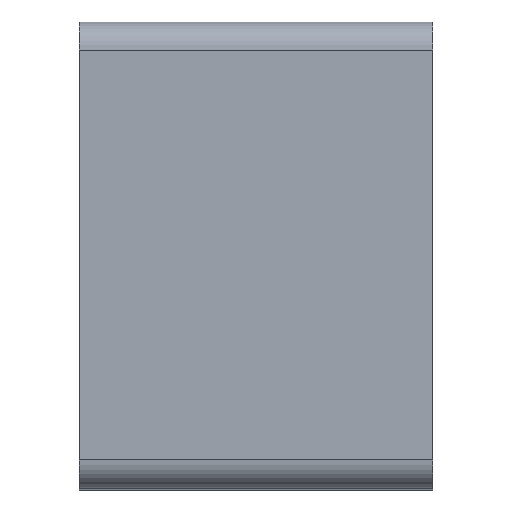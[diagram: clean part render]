
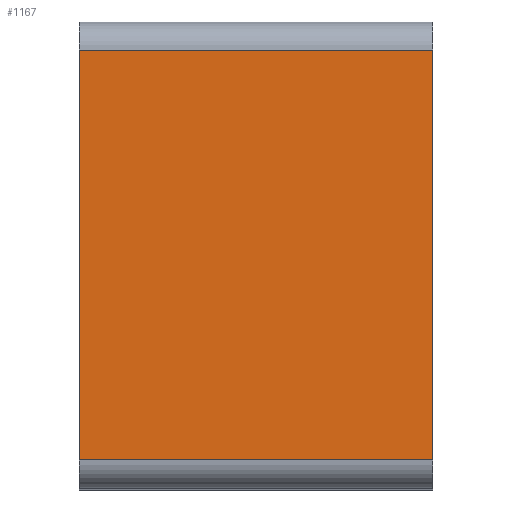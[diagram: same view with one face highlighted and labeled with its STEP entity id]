
A CAD part, top view. The second image highlights one B-rep face of the part: STEP entity #1167.
In plain terms, the highlighted planar face has unit normal (0, 0, 1).
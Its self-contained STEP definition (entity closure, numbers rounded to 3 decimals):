
#32 = PLANE('',#33);
#33 = AXIS2_PLACEMENT_3D('',#34,#35,#36);
#34 = CARTESIAN_POINT('',(25.5,23.4,-12.5));
#35 = DIRECTION('',(-1.,0.,0.));
#36 = DIRECTION('',(0.,0.,1.));
#117 = VERTEX_POINT('',#118);
#118 = CARTESIAN_POINT('',(25.5,21.95,-4.95));
#137 = CYLINDRICAL_SURFACE('',#138,0.2);
#138 = AXIS2_PLACEMENT_3D('',#139,#140,#141);
#139 = CARTESIAN_POINT('',(26.75,21.95,-5.15));
#140 = DIRECTION('',(-1.,-0.,0.));
#141 = DIRECTION('',(0.,0.,1.));
#148 = EDGE_CURVE('',#149,#117,#151,.T.);
#149 = VERTEX_POINT('',#150);
#150 = CARTESIAN_POINT('',(25.5,24.85,-4.95));
#151 = SURFACE_CURVE('',#152,(#156,#163),.PCURVE_S1.);
#152 = LINE('',#153,#154);
#153 = CARTESIAN_POINT('',(25.5,24.85,-4.95));
#154 = VECTOR('',#155,1.);
#155 = DIRECTION('',(0.,-1.,0.));
#156 = PCURVE('',#32,#157);
#157 = DEFINITIONAL_REPRESENTATION('',(#158),#162);
#158 = LINE('',#159,#160);
#159 = CARTESIAN_POINT('',(7.55,1.45));
#160 = VECTOR('',#161,1.);
#161 = DIRECTION('',(0.,-1.));
#162 = ( GEOMETRIC_REPRESENTATION_CONTEXT(2) 
PARAMETRIC_REPRESENTATION_CONTEXT() REPRESENTATION_CONTEXT('2D SPACE',''
  ) );
#163 = PCURVE('',#164,#169);
#164 = PLANE('',#165);
#165 = AXIS2_PLACEMENT_3D('',#166,#167,#168);
#166 = CARTESIAN_POINT('',(26.75,24.85,-4.95));
#167 = DIRECTION('',(0.,0.,1.));
#168 = DIRECTION('',(-1.,0.,0.));
#169 = DEFINITIONAL_REPRESENTATION('',(#170),#174);
#170 = LINE('',#171,#172);
#171 = CARTESIAN_POINT('',(1.25,0.));
#172 = VECTOR('',#173,1.);
#173 = DIRECTION('',(0.,1.));
#174 = ( GEOMETRIC_REPRESENTATION_CONTEXT(2) 
PARAMETRIC_REPRESENTATION_CONTEXT() REPRESENTATION_CONTEXT('2D SPACE',''
  ) );
#197 = CYLINDRICAL_SURFACE('',#198,0.2);
#198 = AXIS2_PLACEMENT_3D('',#199,#200,#201);
#199 = CARTESIAN_POINT('',(26.75,24.85,-5.15));
#200 = DIRECTION('',(-1.,0.,0.));
#201 = DIRECTION('',(0.,1.,0.));
#551 = PLANE('',#552);
#552 = AXIS2_PLACEMENT_3D('',#553,#554,#555);
#553 = CARTESIAN_POINT('',(28.,23.4,-12.5));
#554 = DIRECTION('',(1.,-0.,0.));
#555 = DIRECTION('',(0.,0.,-1.));
#801 = VERTEX_POINT('',#802);
#802 = CARTESIAN_POINT('',(28.,24.85,-4.95));
#823 = EDGE_CURVE('',#801,#824,#826,.T.);
#824 = VERTEX_POINT('',#825);
#825 = CARTESIAN_POINT('',(28.,21.95,-4.95));
#826 = SURFACE_CURVE('',#827,(#831,#838),.PCURVE_S1.);
#827 = LINE('',#828,#829);
#828 = CARTESIAN_POINT('',(28.,24.85,-4.95));
#829 = VECTOR('',#830,1.);
#830 = DIRECTION('',(0.,-1.,0.));
#831 = PCURVE('',#551,#832);
#832 = DEFINITIONAL_REPRESENTATION('',(#833),#837);
#833 = LINE('',#834,#835);
#834 = CARTESIAN_POINT('',(-7.55,1.45));
#835 = VECTOR('',#836,1.);
#836 = DIRECTION('',(0.,-1.));
#837 = ( GEOMETRIC_REPRESENTATION_CONTEXT(2) 
PARAMETRIC_REPRESENTATION_CONTEXT() REPRESENTATION_CONTEXT('2D SPACE',''
  ) );
#838 = PCURVE('',#164,#839);
#839 = DEFINITIONAL_REPRESENTATION('',(#840),#844);
#840 = LINE('',#841,#842);
#841 = CARTESIAN_POINT('',(-1.25,0.));
#842 = VECTOR('',#843,1.);
#843 = DIRECTION('',(0.,1.));
#844 = ( GEOMETRIC_REPRESENTATION_CONTEXT(2) 
PARAMETRIC_REPRESENTATION_CONTEXT() REPRESENTATION_CONTEXT('2D SPACE',''
  ) );
#1119 = EDGE_CURVE('',#801,#149,#1120,.T.);
#1120 = SURFACE_CURVE('',#1121,(#1125,#1132),.PCURVE_S1.);
#1121 = LINE('',#1122,#1123);
#1122 = CARTESIAN_POINT('',(26.75,24.85,-4.95));
#1123 = VECTOR('',#1124,1.);
#1124 = DIRECTION('',(-1.,0.,0.));
#1125 = PCURVE('',#197,#1126);
#1126 = DEFINITIONAL_REPRESENTATION('',(#1127),#1131);
#1127 = LINE('',#1128,#1129);
#1128 = CARTESIAN_POINT('',(-1.571,0.));
#1129 = VECTOR('',#1130,1.);
#1130 = DIRECTION('',(-0.,1.));
#1131 = ( GEOMETRIC_REPRESENTATION_CONTEXT(2) 
PARAMETRIC_REPRESENTATION_CONTEXT() REPRESENTATION_CONTEXT('2D SPACE',''
  ) );
#1132 = PCURVE('',#164,#1133);
#1133 = DEFINITIONAL_REPRESENTATION('',(#1134),#1138);
#1134 = LINE('',#1135,#1136);
#1135 = CARTESIAN_POINT('',(0.,0.));
#1136 = VECTOR('',#1137,1.);
#1137 = DIRECTION('',(1.,0.));
#1138 = ( GEOMETRIC_REPRESENTATION_CONTEXT(2) 
PARAMETRIC_REPRESENTATION_CONTEXT() REPRESENTATION_CONTEXT('2D SPACE',''
  ) );
#1167 = ADVANCED_FACE('',(#1168),#164,.T.);
#1168 = FACE_BOUND('',#1169,.T.);
#1169 = EDGE_LOOP('',(#1170,#1171,#1172,#1173));
#1170 = ORIENTED_EDGE('',*,*,#823,.F.);
#1171 = ORIENTED_EDGE('',*,*,#1119,.T.);
#1172 = ORIENTED_EDGE('',*,*,#148,.T.);
#1173 = ORIENTED_EDGE('',*,*,#1174,.F.);
#1174 = EDGE_CURVE('',#824,#117,#1175,.T.);
#1175 = SURFACE_CURVE('',#1176,(#1180,#1187),.PCURVE_S1.);
#1176 = LINE('',#1177,#1178);
#1177 = CARTESIAN_POINT('',(26.75,21.95,-4.95));
#1178 = VECTOR('',#1179,1.);
#1179 = DIRECTION('',(-1.,0.,0.));
#1180 = PCURVE('',#164,#1181);
#1181 = DEFINITIONAL_REPRESENTATION('',(#1182),#1186);
#1182 = LINE('',#1183,#1184);
#1183 = CARTESIAN_POINT('',(0.,2.9));
#1184 = VECTOR('',#1185,1.);
#1185 = DIRECTION('',(1.,0.));
#1186 = ( GEOMETRIC_REPRESENTATION_CONTEXT(2) 
PARAMETRIC_REPRESENTATION_CONTEXT() REPRESENTATION_CONTEXT('2D SPACE',''
  ) );
#1187 = PCURVE('',#137,#1188);
#1188 = DEFINITIONAL_REPRESENTATION('',(#1189),#1192);
#1189 = B_SPLINE_CURVE_WITH_KNOTS('',1,(#1190,#1191),.UNSPECIFIED.,.F.,
  .F.,(2,2),(-1.25,1.25),.PIECEWISE_BEZIER_KNOTS.);
#1190 = CARTESIAN_POINT('',(0.,-1.25));
#1191 = CARTESIAN_POINT('',(0.,1.25));
#1192 = ( GEOMETRIC_REPRESENTATION_CONTEXT(2) 
PARAMETRIC_REPRESENTATION_CONTEXT() REPRESENTATION_CONTEXT('2D SPACE',''
  ) );
